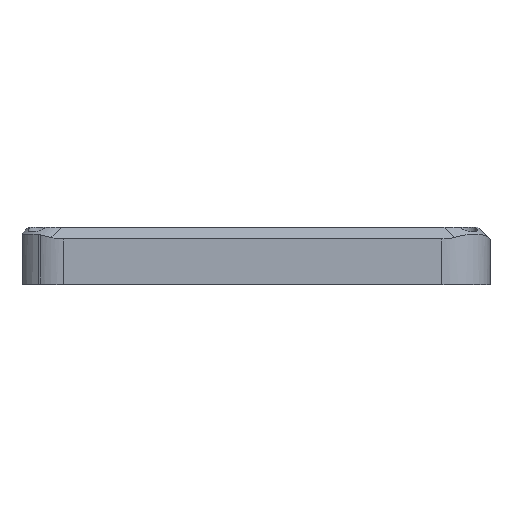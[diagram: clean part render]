
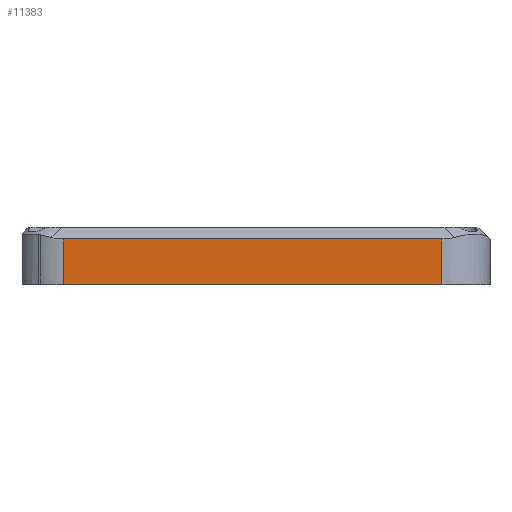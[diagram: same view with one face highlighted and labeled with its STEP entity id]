
A CAD part, top view. The second image highlights one B-rep face of the part: STEP entity #11383.
In plain terms, the highlighted planar face has unit normal (0, 0, 1).
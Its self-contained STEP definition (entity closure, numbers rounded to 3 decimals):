
#736=PLANE('',#12038);
#1268=FACE_OUTER_BOUND('',#1991,.T.);
#1991=EDGE_LOOP('',(#10786,#10787,#10788,#10789));
#3421=LINE('',#17819,#4888);
#3437=LINE('',#17982,#4904);
#3447=LINE('',#18025,#4914);
#3459=LINE('',#18062,#4926);
#4888=VECTOR('',#14580,10.);
#4904=VECTOR('',#14686,10.);
#4914=VECTOR('',#14732,10.);
#4926=VECTOR('',#14782,10.);
#6005=VERTEX_POINT('',#17816);
#6006=VERTEX_POINT('',#17818);
#6036=VERTEX_POINT('',#17980);
#6051=VERTEX_POINT('',#18023);
#7551=EDGE_CURVE('',#6005,#6006,#3421,.T.);
#7599=EDGE_CURVE('',#6036,#6005,#3437,.T.);
#7622=EDGE_CURVE('',#6051,#6036,#3447,.T.);
#7639=EDGE_CURVE('',#6006,#6051,#3459,.T.);
#10786=ORIENTED_EDGE('',*,*,#7551,.F.);
#10787=ORIENTED_EDGE('',*,*,#7599,.F.);
#10788=ORIENTED_EDGE('',*,*,#7622,.F.);
#10789=ORIENTED_EDGE('',*,*,#7639,.F.);
#11383=ADVANCED_FACE('',(#1268),#736,.T.);
#12038=AXIS2_PLACEMENT_3D('',#18061,#14780,#14781);
#14580=DIRECTION('',(0.,1.,0.));
#14686=DIRECTION('',(-1.,0.,0.));
#14732=DIRECTION('',(0.,-1.,0.));
#14780=DIRECTION('center_axis',(0.,0.,1.));
#14781=DIRECTION('ref_axis',(1.,0.,0.));
#14782=DIRECTION('',(1.,0.,0.));
#17816=CARTESIAN_POINT('',(16.,0.,178.6));
#17818=CARTESIAN_POINT('',(16.,15.,178.6));
#17819=CARTESIAN_POINT('',(16.,0.,178.6));
#17980=CARTESIAN_POINT('',(142.,0.,178.6));
#17982=CARTESIAN_POINT('',(158.,0.,178.6));
#18023=CARTESIAN_POINT('',(142.,15.,178.6));
#18025=CARTESIAN_POINT('',(142.,0.,178.6));
#18061=CARTESIAN_POINT('Origin',(0.,0.,178.6));
#18062=CARTESIAN_POINT('',(39.5,15.,178.6));
